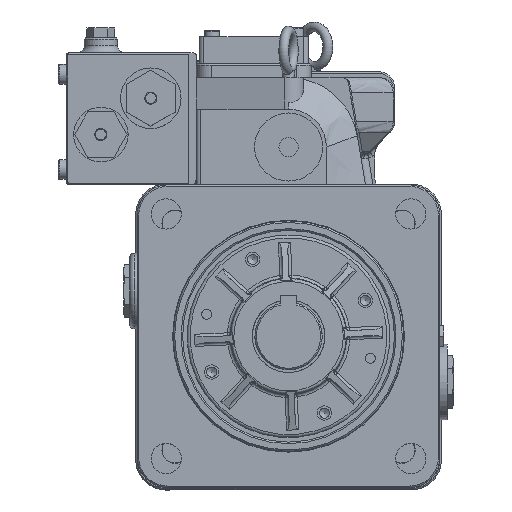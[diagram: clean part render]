
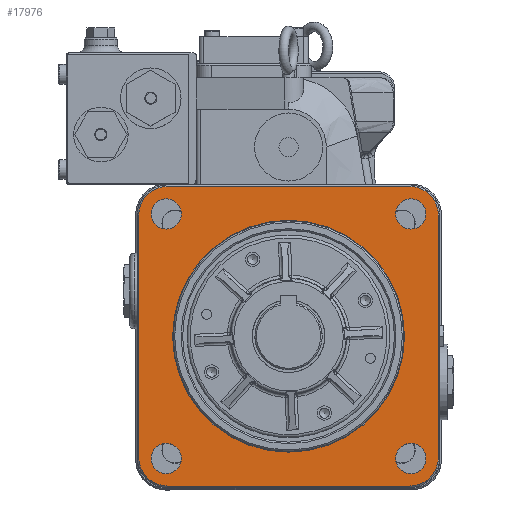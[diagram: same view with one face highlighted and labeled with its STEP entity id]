
A CAD part, top view. The second image highlights one B-rep face of the part: STEP entity #17976.
In plain terms, the highlighted planar face has unit normal (0, 0, 1).
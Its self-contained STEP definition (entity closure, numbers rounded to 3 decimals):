
#865=LINE($,#28844,#1940);
#870=LINE($,#28862,#1945);
#874=LINE($,#28869,#1949);
#878=LINE($,#28884,#1953);
#1940=VECTOR($,#22431,160.);
#1945=VECTOR($,#22450,160.);
#1949=VECTOR($,#22456,160.);
#1953=VECTOR($,#22474,160.);
#3428=FACE_BOUND($,#5278,.T.);
#3429=FACE_BOUND($,#5279,.T.);
#3430=FACE_BOUND($,#5280,.T.);
#3431=FACE_BOUND($,#5281,.T.);
#3432=FACE_BOUND($,#5282,.T.);
#3433=FACE_BOUND($,#5283,.T.);
#5278=EDGE_LOOP($,(#12557));
#5279=EDGE_LOOP($,(#12558));
#5280=EDGE_LOOP($,(#12559));
#5281=EDGE_LOOP($,(#12560));
#5282=EDGE_LOOP($,(#12561));
#5283=EDGE_LOOP($,(#12562,#12563,#12564,#12565,#12566,#12567,#12568,#12569));
#6531=CIRCLE($,#19188,10.);
#6533=CIRCLE($,#19191,10.);
#6535=CIRCLE($,#19194,10.);
#6537=CIRCLE($,#19197,10.);
#6680=CIRCLE($,#19483,19.);
#6683=CIRCLE($,#19487,19.);
#6684=CIRCLE($,#19491,19.);
#6687=CIRCLE($,#19495,19.);
#6688=CIRCLE($,#19501,76.6);
#7480=VERTEX_POINT($,#26739);
#7482=VERTEX_POINT($,#26744);
#7484=VERTEX_POINT($,#26749);
#7486=VERTEX_POINT($,#26754);
#7721=VERTEX_POINT($,#28841);
#7722=VERTEX_POINT($,#28843);
#7724=VERTEX_POINT($,#28848);
#7725=VERTEX_POINT($,#28853);
#7728=VERTEX_POINT($,#28860);
#7729=VERTEX_POINT($,#28865);
#7732=VERTEX_POINT($,#28872);
#7733=VERTEX_POINT($,#28877);
#7735=VERTEX_POINT($,#28892);
#9136=EDGE_CURVE($,#7480,#7480,#6531,.T.);
#9138=EDGE_CURVE($,#7482,#7482,#6533,.T.);
#9140=EDGE_CURVE($,#7484,#7484,#6535,.T.);
#9142=EDGE_CURVE($,#7486,#7486,#6537,.T.);
#9515=EDGE_CURVE($,#7721,#7722,#865,.T.);
#9518=EDGE_CURVE($,#7724,#7721,#6680,.T.);
#9522=EDGE_CURVE($,#7722,#7725,#6683,.T.);
#9524=EDGE_CURVE($,#7728,#7724,#870,.T.);
#9528=EDGE_CURVE($,#7725,#7729,#874,.T.);
#9530=EDGE_CURVE($,#7732,#7728,#6684,.T.);
#9534=EDGE_CURVE($,#7729,#7733,#6687,.T.);
#9536=EDGE_CURVE($,#7733,#7732,#878,.T.);
#9540=EDGE_CURVE($,#7735,#7735,#6688,.T.);
#12557=ORIENTED_EDGE($,*,*,#9136,.T.);
#12558=ORIENTED_EDGE($,*,*,#9138,.T.);
#12559=ORIENTED_EDGE($,*,*,#9140,.T.);
#12560=ORIENTED_EDGE($,*,*,#9142,.T.);
#12561=ORIENTED_EDGE($,*,*,#9540,.F.);
#12562=ORIENTED_EDGE($,*,*,#9515,.F.);
#12563=ORIENTED_EDGE($,*,*,#9518,.F.);
#12564=ORIENTED_EDGE($,*,*,#9524,.F.);
#12565=ORIENTED_EDGE($,*,*,#9530,.F.);
#12566=ORIENTED_EDGE($,*,*,#9536,.F.);
#12567=ORIENTED_EDGE($,*,*,#9534,.F.);
#12568=ORIENTED_EDGE($,*,*,#9528,.F.);
#12569=ORIENTED_EDGE($,*,*,#9522,.F.);
#16082=PLANE($,#19500);
#17976=ADVANCED_FACE($,(#3428,#3429,#3430,#3431,#3432,#3433),#16082,.T.);
#19188=AXIS2_PLACEMENT_3D($,#26740,#21689,#21690);
#19191=AXIS2_PLACEMENT_3D($,#26745,#21695,#21696);
#19194=AXIS2_PLACEMENT_3D($,#26750,#21701,#21702);
#19197=AXIS2_PLACEMENT_3D($,#26755,#21707,#21708);
#19483=AXIS2_PLACEMENT_3D($,#28850,#22436,#22437);
#19487=AXIS2_PLACEMENT_3D($,#28857,#22445,#22446);
#19491=AXIS2_PLACEMENT_3D($,#28874,#22460,#22461);
#19495=AXIS2_PLACEMENT_3D($,#28881,#22469,#22470);
#19500=AXIS2_PLACEMENT_3D($,#28891,#22484,#22485);
#19501=AXIS2_PLACEMENT_3D($,#28893,#22486,#22487);
#21689=DIRECTION('center_axis',(0.,0.,
-1.));
#21690=DIRECTION('ref_axis',(-1.,0.,0.));
#21695=DIRECTION('center_axis',(0.,0.,
-1.));
#21696=DIRECTION('ref_axis',(-1.,0.,0.));
#21701=DIRECTION('center_axis',(0.,0.,
-1.));
#21702=DIRECTION('ref_axis',(-1.,0.,0.));
#21707=DIRECTION('center_axis',(0.,0.,
-1.));
#21708=DIRECTION('ref_axis',(-1.,0.,0.));
#22431=DIRECTION($,(1.,0.,0.));
#22436=DIRECTION('center_axis',(0.,0.,
-1.));
#22437=DIRECTION('ref_axis',(0.,1.,0.));
#22445=DIRECTION('center_axis',(0.,0.,
-1.));
#22446=DIRECTION('ref_axis',(1.,0.,0.));
#22450=DIRECTION($,(0.,1.,0.));
#22456=DIRECTION($,(0.,-1.,0.));
#22460=DIRECTION('center_axis',(0.,0.,
-1.));
#22461=DIRECTION('ref_axis',(-1.,0.,0.));
#22469=DIRECTION('center_axis',(0.,0.,
-1.));
#22470=DIRECTION('ref_axis',(0.,-1.,0.));
#22474=DIRECTION($,(-1.,0.,0.));
#22484=DIRECTION('center_axis',(0.,0.,
1.));
#22485=DIRECTION('ref_axis',(1.,0.,0.));
#22486=DIRECTION('center_axis',(0.,0.,
1.));
#22487=DIRECTION('ref_axis',(-1.,0.,0.));
#26739=CARTESIAN_POINT('',(90.8,-80.8,23.));
#26740=CARTESIAN_POINT('Origin',(80.8,-80.8,23.));
#26744=CARTESIAN_POINT('',(-70.8,80.8,23.));
#26745=CARTESIAN_POINT('Origin',(-80.8,80.8,23.));
#26749=CARTESIAN_POINT('',(90.8,80.8,23.));
#26750=CARTESIAN_POINT('Origin',(80.8,80.8,23.));
#26754=CARTESIAN_POINT('',(-70.8,-80.8,23.));
#26755=CARTESIAN_POINT('Origin',(-80.8,-80.8,23.));
#28841=CARTESIAN_POINT('',(-80.,99.,23.));
#28843=CARTESIAN_POINT('',(80.,99.,23.));
#28844=CARTESIAN_POINT($,(-40.,99.,23.));
#28848=CARTESIAN_POINT('',(-99.,80.,23.));
#28850=CARTESIAN_POINT('Origin',(-80.,80.,23.));
#28853=CARTESIAN_POINT('',(99.,80.,23.));
#28857=CARTESIAN_POINT('Origin',(80.,80.,23.));
#28860=CARTESIAN_POINT('',(-99.,-80.,23.));
#28862=CARTESIAN_POINT($,(-99.,-40.,23.));
#28865=CARTESIAN_POINT('',(99.,-80.,23.));
#28869=CARTESIAN_POINT($,(99.,40.,23.));
#28872=CARTESIAN_POINT('',(-80.,-99.,23.));
#28874=CARTESIAN_POINT('Origin',(-80.,-80.,23.));
#28877=CARTESIAN_POINT('',(80.,-99.,23.));
#28881=CARTESIAN_POINT('Origin',(80.,-80.,23.));
#28884=CARTESIAN_POINT($,(40.,-99.,23.));
#28891=CARTESIAN_POINT('Origin',(0.,0.,
23.));
#28892=CARTESIAN_POINT('',(76.6,0.,23.));
#28893=CARTESIAN_POINT('Origin',(0.,0.,
23.));
